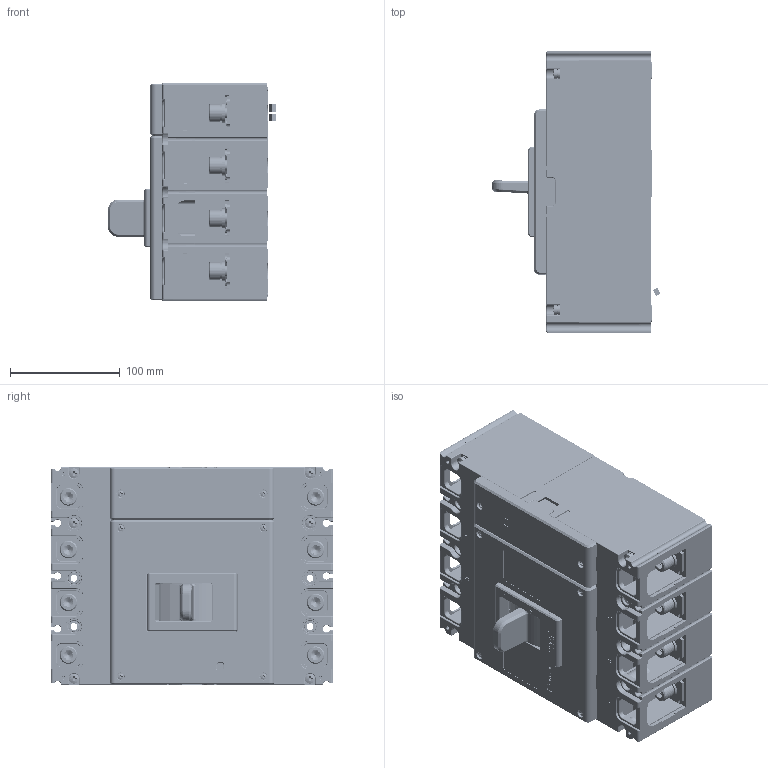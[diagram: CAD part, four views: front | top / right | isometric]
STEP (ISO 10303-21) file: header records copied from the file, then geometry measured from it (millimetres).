
FILE_DESCRIPTION((''),'2;1');
FILE_NAME('CDM6H-630L_M_R-4300_ASM','2022-12-05T',('ling.zeng'),(''),'PRO/ENGINEER BY PARAMETRIC TECHNOLOGY CORPORATION, 2015440','PRO/ENGINEER BY PARAMETRIC TECHNOLOGY CORPORATION, 2015440','');
FILE_SCHEMA(('CONFIG_CONTROL_DESIGN'));
Products named in the file (74): PRT0178_1; PRT0179_1; ASM0040_ASM_1_ASM; PRT0180_1; PRT0181_1_AF0; PRT0182_1; PRT0183_1; PRT0184_1; ASM0041_ASM_1_ASM; PRT0188_1; PRT0189_1; MANIFOLD_SOLID_BREP_154372_1; MANIFOLD_SOLID_BREP_154574_1; ASM0044_ASM_1_ASM; PRT0190_1; MANIFOLD_SOLID_BREP_155279_1; MANIFOLD_SOLID_BREP_155429_1; ASM0045_ASM_1_ASM; MANIFOLD_SOLID_BREP_156112_1; MANIFOLD_SOLID_BREP_156275_1; ASM0046_ASM_1_ASM; ASM0042_ASM_1_ASM; 5551072100_ASM_2_ASM_1; 8205068400_2_1; 8585064800_1_1; MANIFOLD_SOLID_BREP_157376_1; MANIFOLD_SOLID_BREP_157526_1; 85050244P02_2_ASM_1_ASM; 5DLX_551_719_ASM_1_ASM_1_ASM; 5DLX_551_718_ASM_1_ASM_1_ASM; PRT0230_1; PRT0231_1; PRT0232_1; ASM0052_ASM_1_ASM; PRT0233_1; PRT0003; PRT0004; ASM0053_ASM_1_ASM; PRT0234_1; 5295009000_ASM_1_ASM_1_ASM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
Assembly tree (154 placements, depth 8):
  CDM6H-630L_M_R-4300_ASM
    CDM3V-630F-4300-630A_ASM_1_ASM
      2253026100_ASM_1_ASM_1_ASM
        5295009000_ASM_1_ASM_1_ASM
          ASM0040_ASM_1_ASM
            PRT0178_1
            PRT0179_1  x8
          PRT0180_1  x8
          ASM0041_ASM_1_ASM  x4
            PRT0181_1_AF0
            PRT0182_1
            PRT0183_1
            PRT0184_1
          5DLX_551_718_ASM_1_ASM_1_ASM
            ASM0042_ASM_1_ASM  x3
              PRT0188_1
              PRT0189_1
              ASM0044_ASM_1_ASM
                MANIFOLD_SOLID_BREP_154372_1
                MANIFOLD_SOLID_BREP_154574_1
              PRT0190_1
              ASM0045_ASM_1_ASM
                MANIFOLD_SOLID_BREP_155279_1
                MANIFOLD_SOLID_BREP_155429_1
              ASM0046_ASM_1_ASM
                MANIFOLD_SOLID_BREP_156112_1
                MANIFOLD_SOLID_BREP_156275_1
            5DLX_551_719_ASM_1_ASM_1_ASM
              5551072100_ASM_2_ASM_1
              8205068400_2_1
              8585064800_1_1
              85050244P02_2_ASM_1_ASM  x2
                MANIFOLD_SOLID_BREP_157376_1
                MANIFOLD_SOLID_BREP_157526_1
          ASM0052_ASM_1_ASM  x19
            PRT0230_1
            PRT0231_1
            PRT0232_1
          ASM0053_ASM_1_ASM  x4
            PRT0233_1
            PRT0003
            PRT0004
          PRT0234_1  x4
        ASM0054_ASM_1_ASM  x8
          PRT0235_1
          PRT0236_1
          PRT0237_1
        PRT0243_1  x4
        PRT0244_1  x4
        ASM0056_ASM_1_ASM
          PRT0245_1
          PRT0246_1
          PRT0247_1
        PRT0248_1  x3
        PRT0249_1  x4
        ASM0057_ASM_1_ASM
          ASM0058_ASM_1_ASM
            PRT0250_1
            PRT0251_1  x6
          PRT0252_1
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Bounding box: 153.48 x 257 x 198 mm (x, y, z)
Volume: 1941166.3 mm3; surface area: 988391 mm2
Topology: 247 solids, 341 shells, 12241 faces, 31841 edges, 20236 vertices
Faces by surface type: plane 6926, cylinder 3509, torus 663, cone 507, sphere 239, extrusion 221, bspline 176
Entity records: 295060 total; most frequent: CARTESIAN_POINT 69774, ORIENTED_EDGE 47276, DIRECTION 46142, EDGE_CURVE 23676, VECTOR 16404, LINE 16183, VERTEX_POINT 15214, AXIS2_PLACEMENT_3D 14869
